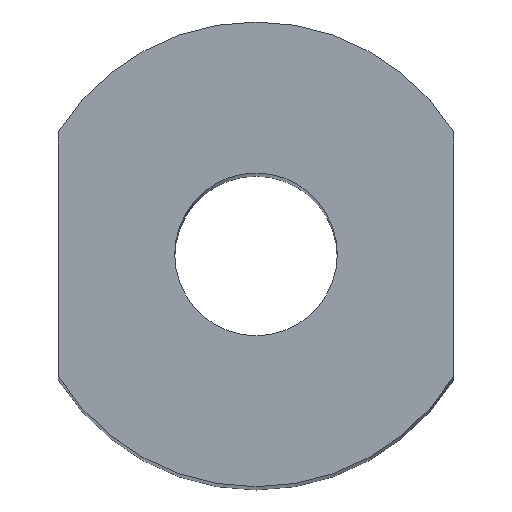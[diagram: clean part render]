
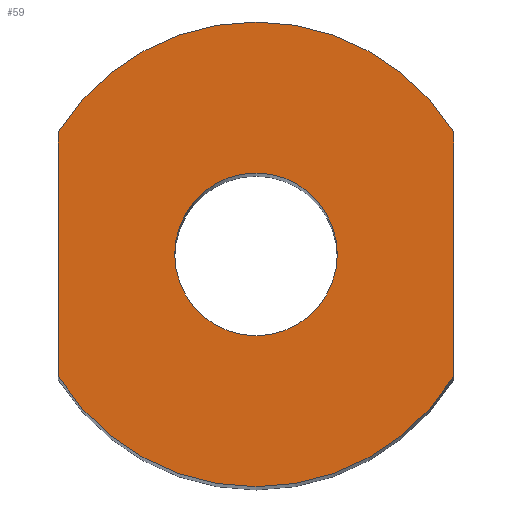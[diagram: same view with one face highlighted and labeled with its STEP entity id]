
A CAD part, top view. The second image highlights one B-rep face of the part: STEP entity #59.
In plain terms, the highlighted planar face has unit normal (0, 0, 1).
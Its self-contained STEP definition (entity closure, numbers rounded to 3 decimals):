
#1 = AXIS2_PLACEMENT_3D ( 'NONE', #4, #239, #3 ) ;
#2 = VERTEX_POINT ( 'NONE', #92 ) ;
#3 = DIRECTION ( 'NONE',  ( -1., 0., 0. ) ) ;
#4 = CARTESIAN_POINT ( 'NONE',  ( 757.7, 385.9, 80. ) ) ;
#5 = EDGE_CURVE ( 'NONE', #11, #151, #187, .T. ) ;
#11 = VERTEX_POINT ( 'NONE', #141 ) ;
#13 = CARTESIAN_POINT ( 'NONE',  ( 754.2, 385.9, 80. ) ) ;
#26 = DIRECTION ( 'NONE',  ( 0., 0., -1. ) ) ;
#28 = CARTESIAN_POINT ( 'NONE',  ( 757.7, 385.9, 80. ) ) ;
#33 = CARTESIAN_POINT ( 'NONE',  ( 749.2, 380.632, 80. ) ) ;
#36 = VECTOR ( 'NONE', #95, 1000. ) ;
#38 = ORIENTED_EDGE ( 'NONE', *, *, #229, .F. ) ;
#39 = DIRECTION ( 'NONE',  ( 0., 0., -1. ) ) ;
#45 = AXIS2_PLACEMENT_3D ( 'NONE', #115, #96, #145 ) ;
#46 = FACE_BOUND ( 'NONE', #123, .T. ) ;
#53 = CARTESIAN_POINT ( 'NONE',  ( 766.2, 391.168, 80. ) ) ;
#59 = ADVANCED_FACE ( 'NONE', ( #46, #116 ), #89, .F. ) ;
#71 = CARTESIAN_POINT ( 'NONE',  ( 749.2, 380.632, 80. ) ) ;
#75 = CARTESIAN_POINT ( 'NONE',  ( 766.2, 380.632, 80. ) ) ;
#76 = ORIENTED_EDGE ( 'NONE', *, *, #270, .F. ) ;
#78 = VERTEX_POINT ( 'NONE', #71 ) ;
#82 = EDGE_CURVE ( 'NONE', #151, #11, #162, .T. ) ;
#89 = PLANE ( 'NONE',  #1 ) ;
#90 = VERTEX_POINT ( 'NONE', #53 ) ;
#92 = CARTESIAN_POINT ( 'NONE',  ( 749.2, 391.168, 80. ) ) ;
#95 = DIRECTION ( 'NONE',  ( 0., 1., 0. ) ) ;
#96 = DIRECTION ( 'NONE',  ( 0., 0., -1. ) ) ;
#113 = AXIS2_PLACEMENT_3D ( 'NONE', #204, #26, #222 ) ;
#115 = CARTESIAN_POINT ( 'NONE',  ( 757.7, 385.9, 80. ) ) ;
#116 = FACE_OUTER_BOUND ( 'NONE', #190, .T. ) ;
#118 = CARTESIAN_POINT ( 'NONE',  ( 766.2, 391.168, 80. ) ) ;
#119 = EDGE_CURVE ( 'NONE', #2, #90, #246, .T. ) ;
#123 = EDGE_LOOP ( 'NONE', ( #263, #233 ) ) ;
#127 = DIRECTION ( 'NONE',  ( -1., 0., 0. ) ) ;
#138 = DIRECTION ( 'NONE',  ( 0., 0., -1. ) ) ;
#141 = CARTESIAN_POINT ( 'NONE',  ( 761.2, 385.9, 80. ) ) ;
#142 = CIRCLE ( 'NONE', #147, 10. ) ;
#145 = DIRECTION ( 'NONE',  ( -1., 0., 0. ) ) ;
#147 = AXIS2_PLACEMENT_3D ( 'NONE', #196, #39, #127 ) ;
#151 = VERTEX_POINT ( 'NONE', #13 ) ;
#156 = VERTEX_POINT ( 'NONE', #75 ) ;
#158 = LINE ( 'NONE', #33, #36 ) ;
#162 = CIRCLE ( 'NONE', #113, 3.5 ) ;
#168 = VECTOR ( 'NONE', #188, 1000. ) ;
#177 = EDGE_CURVE ( 'NONE', #90, #156, #186, .T. ) ;
#178 = DIRECTION ( 'NONE',  ( 1., 0., 0. ) ) ;
#186 = LINE ( 'NONE', #118, #168 ) ;
#187 = CIRCLE ( 'NONE', #230, 3.5 ) ;
#188 = DIRECTION ( 'NONE',  ( 0., -1., 0. ) ) ;
#190 = EDGE_LOOP ( 'NONE', ( #226, #38, #76, #267 ) ) ;
#196 = CARTESIAN_POINT ( 'NONE',  ( 757.7, 385.9, 80. ) ) ;
#204 = CARTESIAN_POINT ( 'NONE',  ( 757.7, 385.9, 80. ) ) ;
#222 = DIRECTION ( 'NONE',  ( 1., 0., 0. ) ) ;
#226 = ORIENTED_EDGE ( 'NONE', *, *, #119, .F. ) ;
#229 = EDGE_CURVE ( 'NONE', #78, #2, #158, .T. ) ;
#230 = AXIS2_PLACEMENT_3D ( 'NONE', #28, #138, #178 ) ;
#233 = ORIENTED_EDGE ( 'NONE', *, *, #5, .T. ) ;
#239 = DIRECTION ( 'NONE',  ( 0., 0., -1. ) ) ;
#246 = CIRCLE ( 'NONE', #45, 10. ) ;
#263 = ORIENTED_EDGE ( 'NONE', *, *, #82, .T. ) ;
#267 = ORIENTED_EDGE ( 'NONE', *, *, #177, .F. ) ;
#270 = EDGE_CURVE ( 'NONE', #156, #78, #142, .T. ) ;
